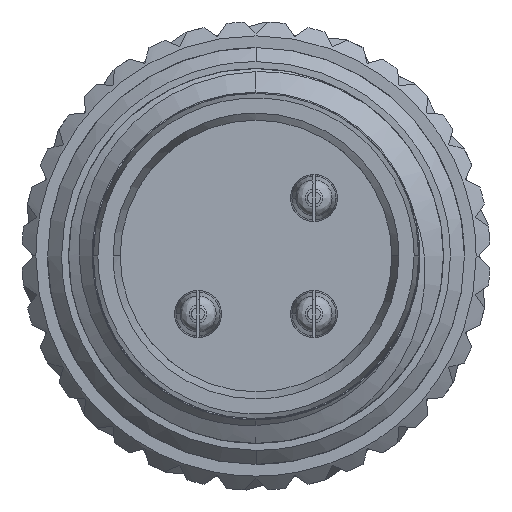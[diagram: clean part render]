
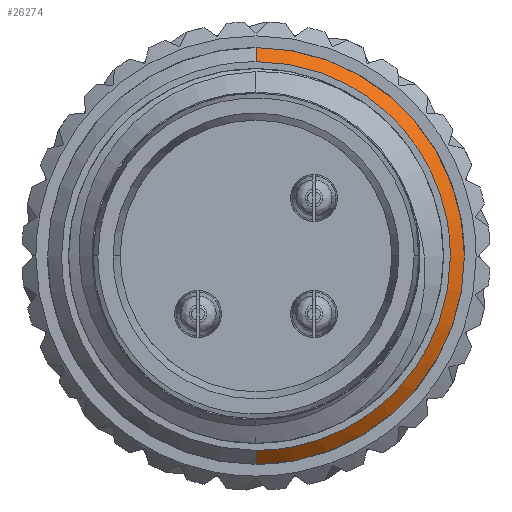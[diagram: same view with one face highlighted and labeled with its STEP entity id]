
A CAD part, left-side view. The second image highlights one B-rep face of the part: STEP entity #26274.
In plain terms, the highlighted conical face has half-angle 45 degrees and reference radius 4.45 mm.
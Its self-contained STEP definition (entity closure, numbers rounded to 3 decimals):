
#54 = AXIS2_PLACEMENT_3D ( 'NONE', #31204, #41599, #14187 ) ;
#81 = ORIENTED_EDGE ( 'NONE', *, *, #26968, .F. ) ;
#940 = CARTESIAN_POINT ( 'NONE',  ( -7.05, -2.09, 3.626 ) ) ;
#2017 = CARTESIAN_POINT ( 'NONE',  ( -7.05, -2.55, 3.319 ) ) ;
#2799 = CARTESIAN_POINT ( 'NONE',  ( -6.75, 0., -4.45 ) ) ;
#2950 = DIRECTION ( 'NONE',  ( 0.707, 0., -0.707 ) ) ;
#5166 = VECTOR ( 'NONE', #2950, 1000. ) ;
#5588 = CARTESIAN_POINT ( 'NONE',  ( -7.05, -3.319, -2.55 ) ) ;
#6522 = ORIENTED_EDGE ( 'NONE', *, *, #24130, .T. ) ;
#6682 = CARTESIAN_POINT ( 'NONE',  ( -6.75, 0., 4.45 ) ) ;
#8094 = CARTESIAN_POINT ( 'NONE',  ( -7.05, 0., 4.15 ) ) ;
#8531 = EDGE_LOOP ( 'NONE', ( #43096, #6522, #38660, #40866, #81 ) ) ;
#8998 = VERTEX_POINT ( 'NONE', #27010 ) ;
#9004 = EDGE_CURVE ( 'NONE', #8998, #28640, #30755, .T. ) ;
#9237 = CARTESIAN_POINT ( 'NONE',  ( -7.05, -4.042, -1.086 ) ) ;
#10059 = VECTOR ( 'NONE', #39075, 1000. ) ;
#10107 = CARTESIAN_POINT ( 'NONE',  ( -7.05, 0., 4.15 ) ) ;
#10567 = FACE_OUTER_BOUND ( 'NONE', #8531, .T. ) ;
#12273 = CARTESIAN_POINT ( 'NONE',  ( -7.05, -3.626, -2.09 ) ) ;
#12593 = CARTESIAN_POINT ( 'NONE',  ( -7.05, -4.15, -0.543 ) ) ;
#14187 = DIRECTION ( 'NONE',  ( 0., 0., 1. ) ) ;
#15933 = CARTESIAN_POINT ( 'NONE',  ( -7.05, 0., -4.15 ) ) ;
#17451 = CONICAL_SURFACE ( 'NONE', #25368, 4.45, 0.785 ) ;
#17676 = EDGE_CURVE ( 'NONE', #21285, #40274, #28569, .T. ) ;
#18284 = CARTESIAN_POINT ( 'NONE',  ( -7.05, -4.042, 1.086 ) ) ;
#18583 = CARTESIAN_POINT ( 'NONE',  ( -7.05, -1.086, 4.042 ) ) ;
#19593 = CARTESIAN_POINT ( 'NONE',  ( -7.05, -2.55, -3.319 ) ) ;
#20361 = CARTESIAN_POINT ( 'NONE',  ( -6.75, 0., -4.45 ) ) ;
#21285 = VERTEX_POINT ( 'NONE', #10107 ) ;
#21807 = B_SPLINE_CURVE_WITH_KNOTS ( 'NONE', 3,
 ( #8094, #25177, #18583, #940, #2017, #42674, #26381, #18284, #21958, #21825 ),
 .UNSPECIFIED., .F., .F.,
 ( 4, 2, 2, 2, 4 ),
 ( 0., 0.25, 0.5, 0.75, 1. ),
 .UNSPECIFIED. ) ;
#21825 = CARTESIAN_POINT ( 'NONE',  ( -7.05, -4.15, 0. ) ) ;
#21958 = CARTESIAN_POINT ( 'NONE',  ( -7.05, -4.15, 0.543 ) ) ;
#22208 = CARTESIAN_POINT ( 'NONE',  ( -7.05, -4.15, 0. ) ) ;
#22812 = CARTESIAN_POINT ( 'NONE',  ( -7.05, -1.086, -4.042 ) ) ;
#23093 = CARTESIAN_POINT ( 'NONE',  ( -7.05, -0.543, -4.15 ) ) ;
#23721 = DIRECTION ( 'NONE',  ( 1., 0., 0. ) ) ;
#24048 = CARTESIAN_POINT ( 'NONE',  ( -6.75, 0., 0. ) ) ;
#24130 = EDGE_CURVE ( 'NONE', #21285, #32387, #21807, .T. ) ;
#25177 = CARTESIAN_POINT ( 'NONE',  ( -7.05, -0.543, 4.15 ) ) ;
#25368 = AXIS2_PLACEMENT_3D ( 'NONE', #24048, #23721, #27509 ) ;
#26274 = ADVANCED_FACE ( 'NONE', ( #10567 ), #17451, .T. ) ;
#26381 = CARTESIAN_POINT ( 'NONE',  ( -7.05, -3.626, 2.09 ) ) ;
#26968 = EDGE_CURVE ( 'NONE', #40274, #28640, #41786, .T. ) ;
#27010 = CARTESIAN_POINT ( 'NONE',  ( -7.05, 0., -4.15 ) ) ;
#27509 = DIRECTION ( 'NONE',  ( 0., 0., -1. ) ) ;
#28569 = LINE ( 'NONE', #6682, #10059 ) ;
#28640 = VERTEX_POINT ( 'NONE', #20361 ) ;
#29474 = CARTESIAN_POINT ( 'NONE',  ( -7.05, -2.09, -3.626 ) ) ;
#30368 = CARTESIAN_POINT ( 'NONE',  ( -6.75, 0., 4.45 ) ) ;
#30755 = LINE ( 'NONE', #2799, #5166 ) ;
#31204 = CARTESIAN_POINT ( 'NONE',  ( -6.75, 0., 0. ) ) ;
#32387 = VERTEX_POINT ( 'NONE', #22208 ) ;
#33111 = CARTESIAN_POINT ( 'NONE',  ( -7.05, -4.15, 0. ) ) ;
#36529 = B_SPLINE_CURVE_WITH_KNOTS ( 'NONE', 3,
 ( #33111, #12593, #9237, #12273, #5588, #19593, #29474, #22812, #23093, #15933 ),
 .UNSPECIFIED., .F., .F.,
 ( 4, 2, 2, 2, 4 ),
 ( 0., 0.25, 0.5, 0.75, 1. ),
 .UNSPECIFIED. ) ;
#38660 = ORIENTED_EDGE ( 'NONE', *, *, #41525, .T. ) ;
#39075 = DIRECTION ( 'NONE',  ( 0.707, 0., 0.707 ) ) ;
#40274 = VERTEX_POINT ( 'NONE', #30368 ) ;
#40866 = ORIENTED_EDGE ( 'NONE', *, *, #9004, .T. ) ;
#41525 = EDGE_CURVE ( 'NONE', #32387, #8998, #36529, .T. ) ;
#41599 = DIRECTION ( 'NONE',  ( 1., 0., 0. ) ) ;
#41786 = CIRCLE ( 'NONE', #54, 4.45 ) ;
#42674 = CARTESIAN_POINT ( 'NONE',  ( -7.05, -3.319, 2.55 ) ) ;
#43096 = ORIENTED_EDGE ( 'NONE', *, *, #17676, .F. ) ;
